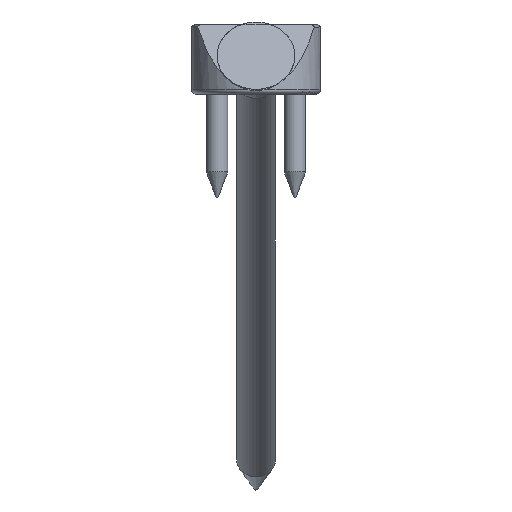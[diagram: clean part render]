
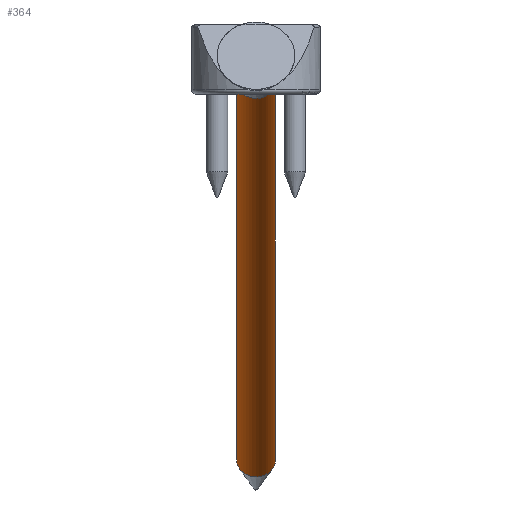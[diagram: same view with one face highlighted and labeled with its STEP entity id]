
A CAD part, front view. The second image highlights one B-rep face of the part: STEP entity #364.
In plain terms, the highlighted cylindrical face has radius 4.5 mm (diameter 9 mm), a full revolution.
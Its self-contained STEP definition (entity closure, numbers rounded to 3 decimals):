
#58=CYLINDRICAL_SURFACE('',#459,4.5);
#144=ORIENTED_EDGE('',*,*,#185,.T.);
#145=ORIENTED_EDGE('',*,*,#184,.F.);
#184=EDGE_CURVE('',#215,#215,#241,.T.);
#185=EDGE_CURVE('',#216,#216,#242,.T.);
#215=VERTEX_POINT('',#714);
#216=VERTEX_POINT('',#717);
#241=CIRCLE('',#458,4.5);
#242=CIRCLE('',#460,4.5);
#284=EDGE_LOOP('',(#144));
#285=EDGE_LOOP('',(#145));
#329=FACE_BOUND('',#284,.T.);
#330=FACE_BOUND('',#285,.T.);
#364=ADVANCED_FACE('',(#329,#330),#58,.T.);
#458=AXIS2_PLACEMENT_3D('',#713,#573,#574);
#459=AXIS2_PLACEMENT_3D('',#715,#575,#576);
#460=AXIS2_PLACEMENT_3D('',#716,#577,#578);
#573=DIRECTION('',(0.,1.,0.));
#574=DIRECTION('',(0.,0.,1.));
#575=DIRECTION('',(0.,1.,0.));
#576=DIRECTION('',(0.,0.,1.));
#577=DIRECTION('',(0.,1.,0.));
#578=DIRECTION('',(0.,0.,1.));
#713=CARTESIAN_POINT('',(0.,42.,0.));
#714=CARTESIAN_POINT('',(0.,42.,4.5));
#715=CARTESIAN_POINT('',(0.,54.,0.));
#716=CARTESIAN_POINT('',(0.,-133.,0.));
#717=CARTESIAN_POINT('',(0.,-133.,4.5));
